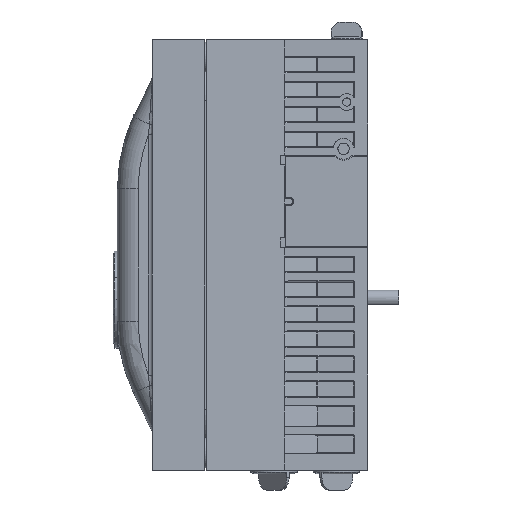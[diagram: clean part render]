
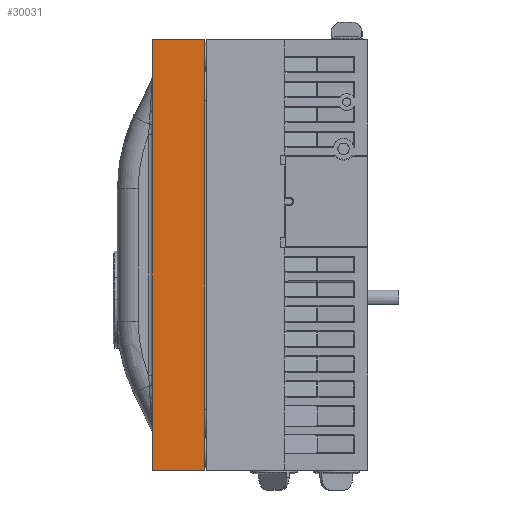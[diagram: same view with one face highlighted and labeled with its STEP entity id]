
A CAD part, left-side view. The second image highlights one B-rep face of the part: STEP entity #30031.
In plain terms, the highlighted planar face has unit normal (-1, 0, 0) as drawn and (0, 0, 1) by its records, which use the part's own axes.
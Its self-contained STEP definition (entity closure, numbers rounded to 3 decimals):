
#28191=CARTESIAN_POINT('',(103.5,25.0,50.25));
#28192=VERTEX_POINT('',#28191);
#28199=CARTESIAN_POINT('',(103.5,0.,50.25));
#28200=VERTEX_POINT('',#28199);
#28201=CARTESIAN_POINT('',(103.5,25.0,50.25));
#28202=DIRECTION('',(0.0,-1.0,0.0));
#28203=VECTOR('',#28202,25.0);
#28204=LINE('',#28201,#28203);
#28205=EDGE_CURVE('',#28192,#28200,#28204,.T.);
#28266=CARTESIAN_POINT('',(69.274,25.,50.25));
#28267=VERTEX_POINT('',#28266);
#28275=CARTESIAN_POINT('',(69.274,25.,50.25));
#28276=DIRECTION('',(1.0,0.0,0.0));
#28277=VECTOR('',#28276,34.226);
#28278=LINE('',#28275,#28277);
#28279=EDGE_CURVE('',#28267,#28192,#28278,.T.);
#28792=CARTESIAN_POINT('',(62.898,25.177,50.25));
#28793=VERTEX_POINT('',#28792);
#28794=CARTESIAN_POINT('',(62.898,25.177,50.25));
#28795=CARTESIAN_POINT('',(63.499,25.157,50.25));
#28796=CARTESIAN_POINT('',(64.101,25.134,50.25));
#28797=CARTESIAN_POINT('',(66.231,25.056,50.25));
#28798=CARTESIAN_POINT('',(67.804,25.,50.25));
#28799=CARTESIAN_POINT('',(69.274,25.,50.25));
#28800=B_SPLINE_CURVE_WITH_KNOTS('',3,(#28794,#28795,#28796,#28797,#28798,#28799),.UNSPECIFIED.,.F.,.U.,(4,2,4),(1.437,1.586,2.035),.UNSPECIFIED.);
#28801=EDGE_CURVE('',#28793,#28267,#28800,.T.);
#28844=CARTESIAN_POINT('',(57.814,25.268,50.25));
#28845=VERTEX_POINT('',#28844);
#28846=CARTESIAN_POINT('',(57.814,25.268,50.25));
#28847=CARTESIAN_POINT('',(58.407,25.268,50.25));
#28848=CARTESIAN_POINT('',(58.997,25.264,50.25));
#28849=CARTESIAN_POINT('',(60.165,25.25,50.25));
#28850=CARTESIAN_POINT('',(60.727,25.239,50.25));
#28851=CARTESIAN_POINT('',(61.834,25.211,50.25));
#28852=CARTESIAN_POINT('',(62.36,25.195,50.25));
#28853=CARTESIAN_POINT('',(62.898,25.177,50.25));
#28854=B_SPLINE_CURVE_WITH_KNOTS('',3,(#28846,#28847,#28848,#28849,#28850,#28851,#28852,#28853),.UNSPECIFIED.,.F.,.U.,(4,2,2,4),(2.251,2.451,2.642,2.822),.UNSPECIFIED.);
#28855=EDGE_CURVE('',#28845,#28793,#28854,.T.);
#28882=CARTESIAN_POINT('',(-57.814,25.268,50.25));
#28883=VERTEX_POINT('',#28882);
#28884=CARTESIAN_POINT('',(-57.814,25.268,50.25));
#28885=DIRECTION('',(1.0,0.0,0.0));
#28886=VECTOR('',#28885,115.627);
#28887=LINE('',#28884,#28886);
#28888=EDGE_CURVE('',#28883,#28845,#28887,.T.);
#28949=CARTESIAN_POINT('',(-69.274,25.,50.25));
#28950=VERTEX_POINT('',#28949);
#29067=CARTESIAN_POINT('',(-62.898,25.177,50.25));
#29068=VERTEX_POINT('',#29067);
#29069=CARTESIAN_POINT('',(-69.274,25.,50.25));
#29070=CARTESIAN_POINT('',(-68.621,25.,50.25));
#29071=CARTESIAN_POINT('',(-67.957,25.011,50.25));
#29072=CARTESIAN_POINT('',(-65.897,25.062,50.25));
#29073=CARTESIAN_POINT('',(-64.437,25.125,50.25));
#29074=CARTESIAN_POINT('',(-62.898,25.177,50.25));
#29075=B_SPLINE_CURVE_WITH_KNOTS('',3,(#29069,#29070,#29071,#29072,#29073,#29074),.UNSPECIFIED.,.F.,.U.,(4,2,4),(0.0,0.196,0.62),.UNSPECIFIED.);
#29076=EDGE_CURVE('',#28950,#29068,#29075,.T.);
#29119=CARTESIAN_POINT('',(-62.898,25.177,50.25));
#29120=CARTESIAN_POINT('',(-62.04,25.206,50.25));
#29121=CARTESIAN_POINT('',(-61.227,25.229,50.25));
#29122=CARTESIAN_POINT('',(-59.516,25.26,50.25));
#29123=CARTESIAN_POINT('',(-58.674,25.268,50.25));
#29124=CARTESIAN_POINT('',(-57.814,25.268,50.25));
#29125=B_SPLINE_CURVE_WITH_KNOTS('',3,(#29119,#29120,#29121,#29122,#29123,#29124),.UNSPECIFIED.,.F.,.U.,(4,2,4),(0.0,0.257,0.519),.UNSPECIFIED.);
#29126=EDGE_CURVE('',#29068,#28883,#29125,.T.);
#29378=CARTESIAN_POINT('',(-103.5,25.,50.25));
#29379=VERTEX_POINT('',#29378);
#29386=CARTESIAN_POINT('',(-103.5,25.,50.25));
#29387=DIRECTION('',(1.0,0.0,0.0));
#29388=VECTOR('',#29387,34.226);
#29389=LINE('',#29386,#29388);
#29390=EDGE_CURVE('',#29379,#28950,#29389,.T.);
#29949=CARTESIAN_POINT('',(-103.5,0.,50.25));
#29950=VERTEX_POINT('',#29949);
#29957=CARTESIAN_POINT('',(-103.5,0.,50.25));
#29958=DIRECTION('',(0.0,1.0,0.0));
#29959=VECTOR('',#29958,25.);
#29960=LINE('',#29957,#29959);
#29961=EDGE_CURVE('',#29950,#29379,#29960,.T.);
#29974=CARTESIAN_POINT('',(103.5,0.,50.25));
#29975=DIRECTION('',(-1.0,0.0,0.0));
#29976=VECTOR('',#29975,207.);
#29977=LINE('',#29974,#29976);
#29978=EDGE_CURVE('',#28200,#29950,#29977,.T.);
#30014=CARTESIAN_POINT('',(0.,12.5,50.25));
#30015=DIRECTION('',(0.0,0.0,1.0));
#30016=DIRECTION('',(1.0,0.0,0.0));
#30017=AXIS2_PLACEMENT_3D('',#30014,#30015,#30016);
#30018=PLANE('',#30017);
#30019=ORIENTED_EDGE('',*,*,#29961,.F.);
#30020=ORIENTED_EDGE('',*,*,#29978,.F.);
#30021=ORIENTED_EDGE('',*,*,#28205,.F.);
#30022=ORIENTED_EDGE('',*,*,#28279,.F.);
#30023=ORIENTED_EDGE('',*,*,#28801,.F.);
#30024=ORIENTED_EDGE('',*,*,#28855,.F.);
#30025=ORIENTED_EDGE('',*,*,#28888,.F.);
#30026=ORIENTED_EDGE('',*,*,#29126,.F.);
#30027=ORIENTED_EDGE('',*,*,#29076,.F.);
#30028=ORIENTED_EDGE('',*,*,#29390,.F.);
#30029=EDGE_LOOP('',(#30019,#30020,#30021,#30022,#30023,#30024,#30025,#30026,#30027,#30028));
#30030=FACE_OUTER_BOUND('',#30029,.T.);
#30031=ADVANCED_FACE('',(#30030),#30018,.T.);
